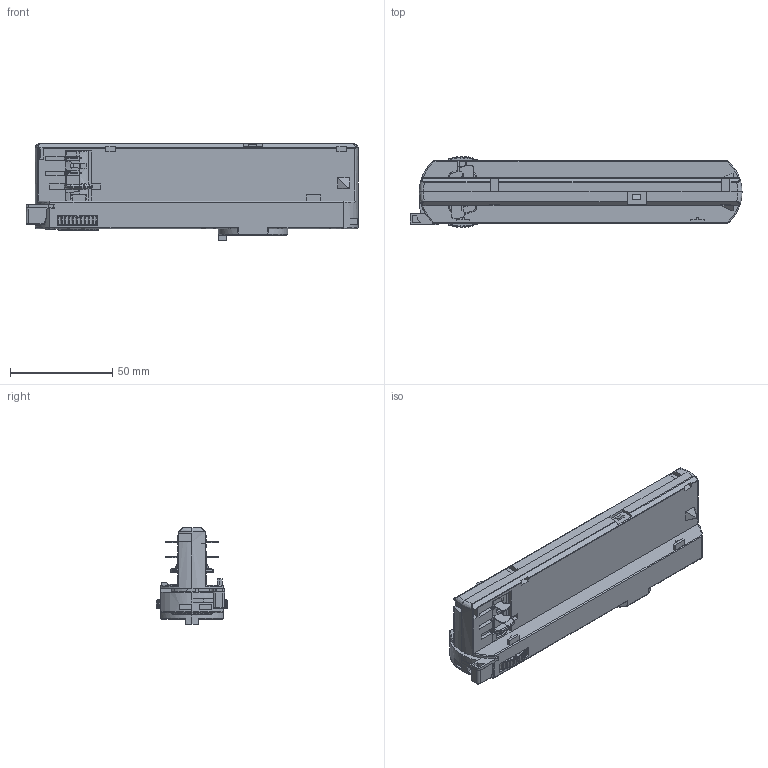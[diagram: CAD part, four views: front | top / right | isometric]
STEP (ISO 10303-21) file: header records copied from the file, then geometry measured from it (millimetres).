
FILE_DESCRIPTION(/* description */ (''),/* implementation_level */ '2;1');
FILE_NAME(/* name */ 'FDS-42~4',/* time_stamp */ '2023-06-30T17:05:11+08:00',/* author */ (''),/* organization */ (''),/* preprocessor_version */ 'ST-DEVELOPER v16.5',/* originating_system */ '',/* authorisation */ '');
FILE_SCHEMA (('AUTOMOTIVE_DESIGN'));
Products named in the file (1): Document
Bounding box: 162.33 x 34.99 x 47.1 mm (x, y, z)
Volume: 2399.3 mm3; surface area: 31603.8 mm2
Topology: 1 solids, 3 shells, 1913 faces, 5032 edges, 3095 vertices
Faces by surface type: bspline 1136, plane 777
Entity records: 167657 total; most frequent: CARTESIAN_POINT 136702, ORIENTED_EDGE 10056, EDGE_CURVE 5033, B_SPLINE_CURVE_WITH_KNOTS 4106, VERTEX_POINT 3095, EDGE_LOOP 1942, ADVANCED_FACE 1913, FACE_OUTER_BOUND 1913
